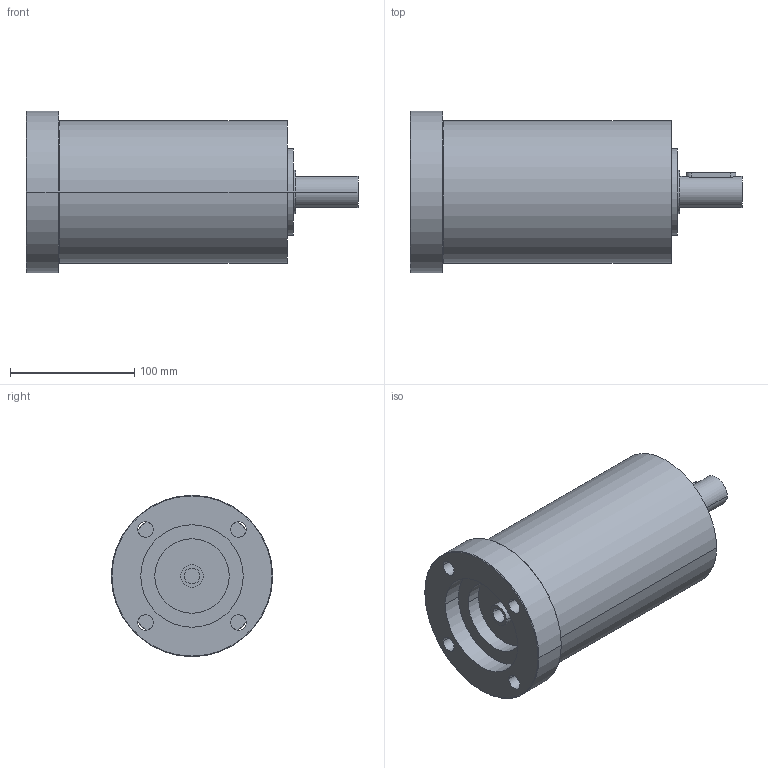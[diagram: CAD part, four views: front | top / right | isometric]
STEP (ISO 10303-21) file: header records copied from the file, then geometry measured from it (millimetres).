
FILE_DESCRIPTION(('CoCreate Modeling STEP Export'),'2;1');
FILE_NAME('GPR125_ig-48-64-80-100-140-196-245-343_25_B14_12.7_P21.stp','2014-08-26T14:20:37',(''),(''),'CoCreate Modeling STEP processor for AP214 (Solid Model)','CoCreate Modeling 16.00C 25-Feb-2009 (C) Parametric Technology GmbH','');
FILE_SCHEMA(('AUTOMOTIVE_DESIGN { 1 0 10303 214 1 1 1 1 }'));
Length unit declared in the file: millimetre
Products named in the file (2): GPR125_ig-48-64-80-100-140-196-245-343_25_B14_12.7_P21
Assembly tree (1 placements, depth 2):
  GPR125_ig-48-64-80-100-140-196-245-343_25_B14_12.7_P21
    GPR125_ig-48-64-80-100-140-196-245-343_25_B14_12.7_P21
Bounding box: 267.5 x 130 x 130 mm (x, y, z)
Volume: 2176728.3 mm3; surface area: 123622.9 mm2
Topology: 1 solids, 1 shells, 67 faces, 176 edges, 118 vertices
Faces by surface type: cylinder 38, plane 21, cone 8
Entity records: 1764 total; most frequent: ORIENTED_EDGE 348, CARTESIAN_POINT 328, DIRECTION 232, EDGE_CURVE 174, VERTEX_POINT 118, AXIS2_PLACEMENT_3D 90, EDGE_LOOP 84, FACE_OUTER_BOUND 67
